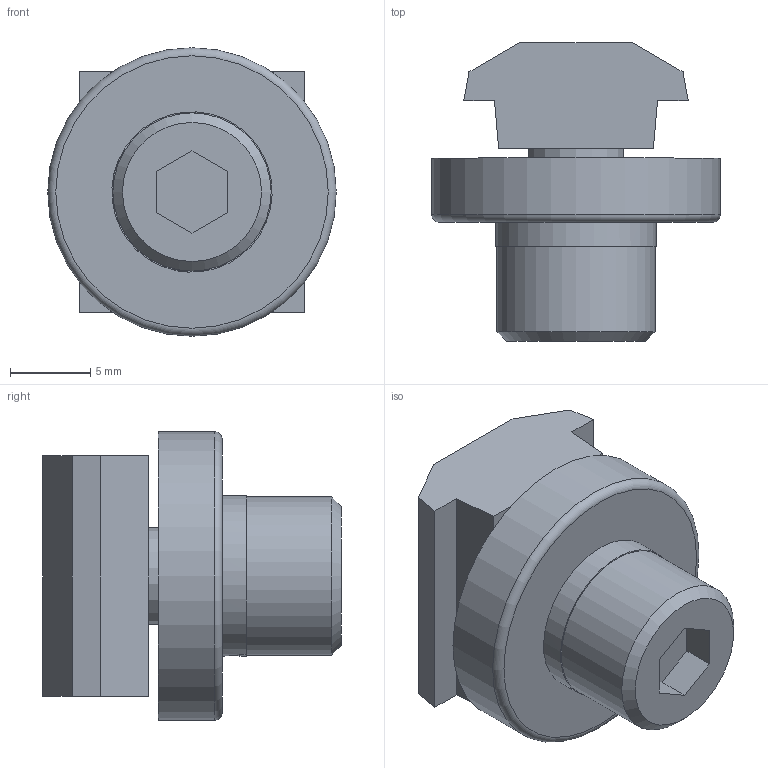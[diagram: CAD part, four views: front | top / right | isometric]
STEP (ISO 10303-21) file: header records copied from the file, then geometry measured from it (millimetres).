
FILE_DESCRIPTION(('STEP AP214'),'1');
FILE_NAME('PW18-40B.stp','2017-07-18T04:42:29',(' '),(' '),'Spatial InterOp 3D',' ',' ');
FILE_SCHEMA(('automotive_design'));
Length unit declared in the file: millimetre
Products named in the file (5): PW18-40B; PW18D-M6; M6SW; ねじ: 穴付き - M6.0 x 12.0; NF40-M6
Assembly tree (4 placements, depth 2):
  PW18-40B
    PW18D-M6
    M6SW
    ねじ: 穴付き - M6.0 x 12.0
    NF40-M6
Bounding box: 18 x 18.62 x 18 mm (x, y, z)
Volume: 2611.9 mm3; surface area: 2277 mm2
Topology: 4 solids, 4 shells, 37 faces, 79 edges, 52 vertices
Faces by surface type: plane 28, cylinder 6, cone 2, torus 1
Full cylindrical faces by diameter (mm): 6 x1, 6.5 x1, 9.87 x1, 18 x1
Entity records: 1372 total; most frequent: DIRECTION 176, CARTESIAN_POINT 166, ORIENTED_EDGE 144, EDGE_CURVE 72, AXIS2_PLACEMENT_3D 62, VERTEX_POINT 52, LINE 52, VECTOR 52
